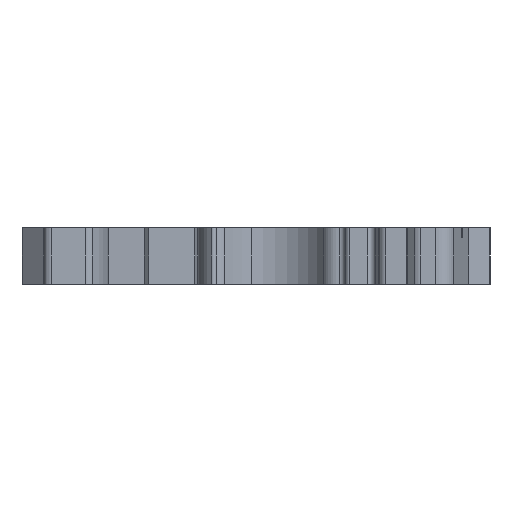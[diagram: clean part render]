
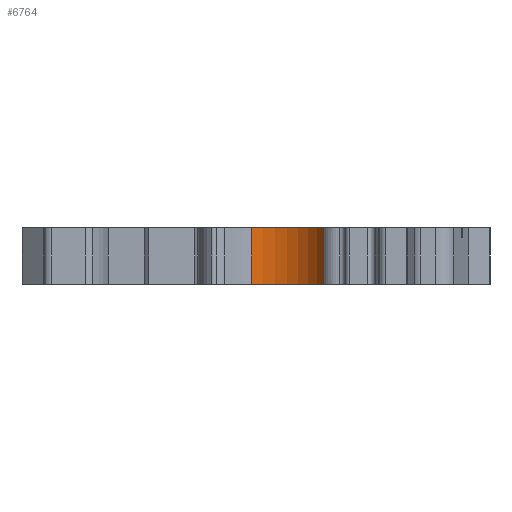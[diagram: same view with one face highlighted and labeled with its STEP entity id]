
A CAD part, front view. The second image highlights one B-rep face of the part: STEP entity #6764.
In plain terms, the highlighted cylindrical face has radius 7.71 mm (diameter 15.42 mm), a partial arc.
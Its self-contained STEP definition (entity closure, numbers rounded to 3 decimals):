
#319=CARTESIAN_POINT('',(0.795,-24.35,0.));
#320=DIRECTION('',(0.,0.,-1.));
#321=DIRECTION('',(-0.174,0.985,0.));
#322=AXIS2_PLACEMENT_3D('',#319,#320,#321);
#880=CARTESIAN_POINT('',(0.795,-24.35,6.2));
#881=DIRECTION('',(0.,0.,1.));
#882=DIRECTION('',(0.857,0.516,0.));
#883=AXIS2_PLACEMENT_3D('',#880,#881,#882);
#2521=DIRECTION('',(0.,0.,-1.));
#2522=VECTOR('',#2521,6.2);
#2523=CARTESIAN_POINT('',(-0.544,-16.757,6.2));
#2524=LINE('',#2523,#2522);
#2525=DIRECTION('',(0.,0.,-1.));
#2526=VECTOR('',#2525,6.2);
#2527=CARTESIAN_POINT('',(7.401,-20.374,6.2));
#2528=LINE('',#2527,#2526);
#2999=CARTESIAN_POINT('',(-0.544,-16.757,0.));
#3000=VERTEX_POINT('',#2999);
#3001=CARTESIAN_POINT('',(7.401,-20.374,0.));
#3002=VERTEX_POINT('',#3001);
#3269=CARTESIAN_POINT('',(7.401,-20.374,6.2));
#3270=VERTEX_POINT('',#3269);
#3271=CARTESIAN_POINT('',(-0.544,-16.757,6.2));
#3272=VERTEX_POINT('',#3271);
#6752=CARTESIAN_POINT('',(0.795,-24.35,-0.124));
#6753=DIRECTION('',(0.,0.,1.));
#6754=DIRECTION('',(1.,0.,0.));
#6755=AXIS2_PLACEMENT_3D('',#6752,#6753,#6754);
#6756=CYLINDRICAL_SURFACE('',#6755,7.71);
#6758=ORIENTED_EDGE('',*,*,#6757,.T.);
#6759=ORIENTED_EDGE('',*,*,#3858,.F.);
#6760=ORIENTED_EDGE('',*,*,#6744,.F.);
#6761=ORIENTED_EDGE('',*,*,#4349,.F.);
#6762=EDGE_LOOP('',(#6758,#6759,#6760,#6761));
#6763=FACE_OUTER_BOUND('',#6762,.F.);
#6764=ADVANCED_FACE('',(#6763),#6756,.F.);
#323=CIRCLE('',#322,7.71);
#884=CIRCLE('',#883,7.71);
#3858=EDGE_CURVE('',#3000,#3002,#323,.T.);
#4349=EDGE_CURVE('',#3270,#3272,#884,.T.);
#6744=EDGE_CURVE('',#3272,#3000,#2524,.T.);
#6757=EDGE_CURVE('',#3270,#3002,#2528,.T.);
